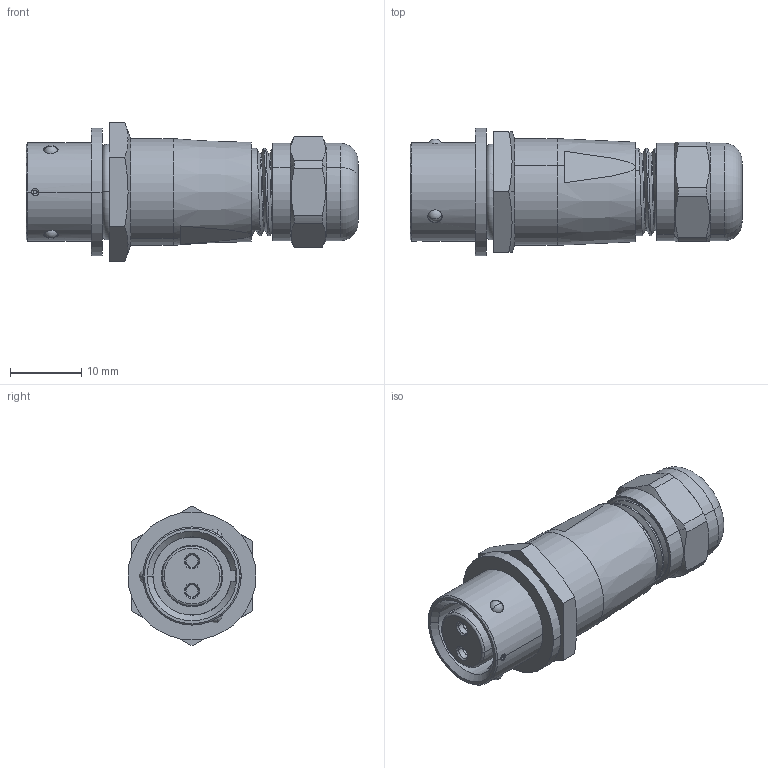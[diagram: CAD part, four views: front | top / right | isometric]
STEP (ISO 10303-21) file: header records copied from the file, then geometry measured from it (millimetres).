
FILE_DESCRIPTION((''),'2;1');
FILE_NAME('ASM0002_ASM','2015-11-26T',('Administrator'),(''),'PRO/ENGINEER BY PARAMETRIC TECHNOLOGY CORPORATION, 2009440','PRO/ENGINEER BY PARAMETRIC TECHNOLOGY CORPORATION, 2009440','');
FILE_SCHEMA(('CONFIG_CONTROL_DESIGN'));
Length unit declared in the file: millimetre
Products named in the file (3): SF12SHENJIAN; SF1212-S2-2015; ASM0002_ASM
Assembly tree (2 placements, depth 2):
  ASM0002_ASM
    SF12SHENJIAN
    SF1212-S2-2015
Bounding box: 46.7 x 18 x 19.63 mm (x, y, z)
Volume: 6754.2 mm3; surface area: 7239.5 mm2
Topology: 2 solids, 4 shells, 457 faces, 1429 edges, 963 vertices
Faces by surface type: cylinder 165, plane 163, bspline 42, torus 39, cone 36, sphere 12
Entity records: 28219 total; most frequent: CARTESIAN_POINT 15753, ORIENTED_EDGE 2846, DIRECTION 2356, EDGE_CURVE 1423, VERTEX_POINT 963, AXIS2_PLACEMENT_3D 919, VECTOR 518, LINE 518
